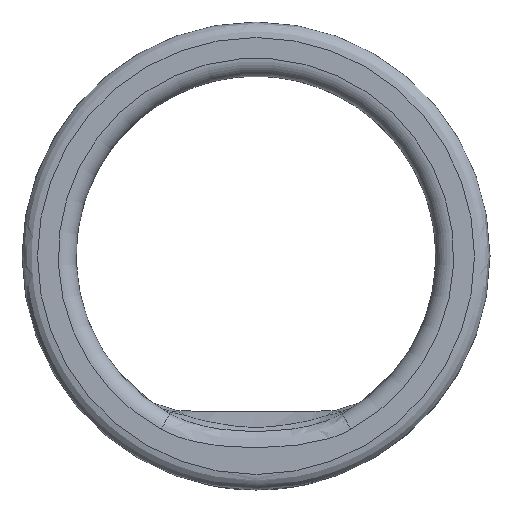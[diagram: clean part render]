
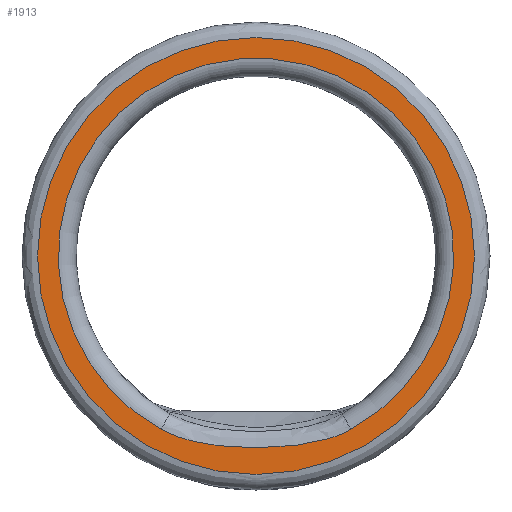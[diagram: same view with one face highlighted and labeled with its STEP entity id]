
A CAD part, front view. The second image highlights one B-rep face of the part: STEP entity #1913.
In plain terms, the highlighted planar face has unit normal (0, -1, 0).
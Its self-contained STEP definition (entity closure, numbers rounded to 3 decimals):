
#202=FACE_BOUND('',#597,.T.);
#212=PLANE('',#2043);
#246=B_SPLINE_CURVE_WITH_KNOTS('',3,(#2642,#2643,#2644,#2645,#2646,#2647,
#2648,#2649,#2650,#2651,#2652,#2653),.UNSPECIFIED.,.F.,.F.,(4,2,2,2,2,4),
(0.,0.272,0.386,0.606,0.606,
0.879),.UNSPECIFIED.);
#489=FACE_OUTER_BOUND('',#596,.T.);
#596=EDGE_LOOP('',(#1319));
#597=EDGE_LOOP('',(#1320,#1321));
#712=CIRCLE('',#2041,8.933);
#714=CIRCLE('',#2044,9.872);
#757=VERTEX_POINT('',#2639);
#758=VERTEX_POINT('',#2641);
#767=VERTEX_POINT('',#2783);
#979=EDGE_CURVE('',#757,#758,#246,.T.);
#984=EDGE_CURVE('',#758,#757,#712,.T.);
#992=EDGE_CURVE('',#767,#767,#714,.T.);
#1319=ORIENTED_EDGE('',*,*,#992,.F.);
#1320=ORIENTED_EDGE('',*,*,#979,.F.);
#1321=ORIENTED_EDGE('',*,*,#984,.F.);
#1913=ADVANCED_FACE('',(#489,#202),#212,.F.);
#2041=AXIS2_PLACEMENT_3D('',#2674,#2143,#2144);
#2043=AXIS2_PLACEMENT_3D('',#2782,#2147,#2148);
#2044=AXIS2_PLACEMENT_3D('',#2784,#2149,#2150);
#2143=DIRECTION('center_axis',(0.,-1.,0.));
#2144=DIRECTION('ref_axis',(0.,0.,1.));
#2147=DIRECTION('center_axis',(0.,1.,0.));
#2148=DIRECTION('ref_axis',(0.,0.,1.));
#2149=DIRECTION('center_axis',(0.,1.,0.));
#2150=DIRECTION('ref_axis',(1.,0.,0.));
#2639=CARTESIAN_POINT('',(-4.286,-4.05,-7.838));
#2641=CARTESIAN_POINT('',(4.286,-4.05,-7.837));
#2642=CARTESIAN_POINT('Ctrl Pts',(-4.286,-4.05,-7.838));
#2643=CARTESIAN_POINT('Ctrl Pts',(-3.49,-4.05,-8.273));
#2644=CARTESIAN_POINT('Ctrl Pts',(-2.574,-4.05,-8.464));
#2645=CARTESIAN_POINT('Ctrl Pts',(-1.298,-4.05,-8.615));
#2646=CARTESIAN_POINT('Ctrl Pts',(-0.918,-4.05,
-8.641));
#2647=CARTESIAN_POINT('Ctrl Pts',(0.192,-4.05,-8.677));
#2648=CARTESIAN_POINT('Ctrl Pts',(0.93,-4.05,-8.657));
#2649=CARTESIAN_POINT('Ctrl Pts',(1.661,-4.05,-8.572));
#2650=CARTESIAN_POINT('Ctrl Pts',(1.661,-4.05,-8.572));
#2651=CARTESIAN_POINT('Ctrl Pts',(2.57,-4.05,-8.465));
#2652=CARTESIAN_POINT('Ctrl Pts',(3.486,-4.05,-8.275));
#2653=CARTESIAN_POINT('Ctrl Pts',(4.286,-4.05,-7.837));
#2674=CARTESIAN_POINT('Origin',(0.,-4.05,0.));
#2782=CARTESIAN_POINT('Origin',(0.,-4.05,0.));
#2783=CARTESIAN_POINT('',(0.,-4.05,-9.872));
#2784=CARTESIAN_POINT('Origin',(0.,-4.05,0.));
